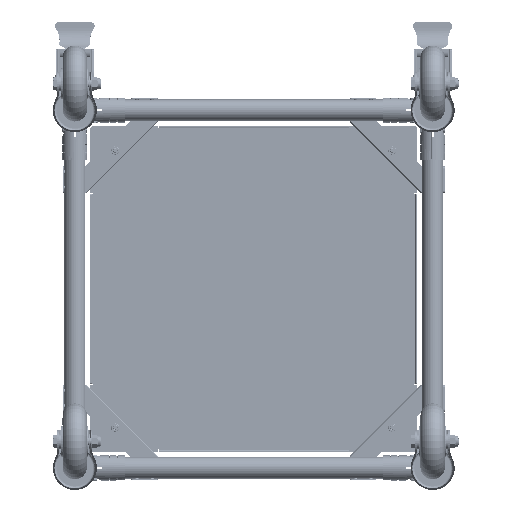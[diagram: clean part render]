
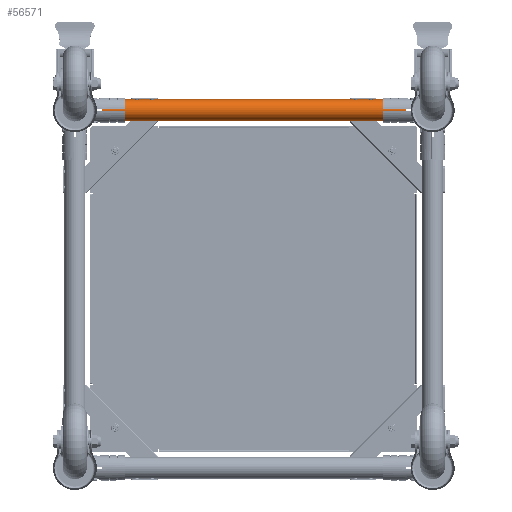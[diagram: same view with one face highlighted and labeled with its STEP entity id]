
A CAD part, front view. The second image highlights one B-rep face of the part: STEP entity #56571.
In plain terms, the highlighted cylindrical face has radius 14 mm (diameter 28 mm), a partial arc.
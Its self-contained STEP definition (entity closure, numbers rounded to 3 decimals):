
#1872 = DIRECTION ( 'NONE',  ( 0., 0., -1. ) ) ;
#2148 = CARTESIAN_POINT ( 'NONE',  ( 14., 0., -200. ) ) ;
#7044 = VERTEX_POINT ( 'NONE', #37733 ) ;
#7471 = CIRCLE ( 'NONE', #70562, 14. ) ;
#7907 = VERTEX_POINT ( 'NONE', #2148 ) ;
#10592 = DIRECTION ( 'NONE',  ( 0., 0., -1. ) ) ;
#16693 = LINE ( 'NONE', #81650, #55185 ) ;
#18286 = DIRECTION ( 'NONE',  ( 0., 0., 1. ) ) ;
#20126 = CARTESIAN_POINT ( 'NONE',  ( -14., 0., 200. ) ) ;
#25223 = LINE ( 'NONE', #44952, #53653 ) ;
#25783 = ORIENTED_EDGE ( 'NONE', *, *, #34199, .T. ) ;
#29890 = CARTESIAN_POINT ( 'NONE',  ( -14., 0., -200. ) ) ;
#33917 = VERTEX_POINT ( 'NONE', #29890 ) ;
#34199 = EDGE_CURVE ( 'NONE', #7907, #33917, #7471, .T. ) ;
#34887 = CYLINDRICAL_SURFACE ( 'NONE', #36739, 14. ) ;
#36739 = AXIS2_PLACEMENT_3D ( 'NONE', #75280, #1872, #61533 ) ;
#37733 = CARTESIAN_POINT ( 'NONE',  ( 14., 0., 200. ) ) ;
#39444 = CIRCLE ( 'NONE', #40849, 14. ) ;
#39727 = EDGE_CURVE ( 'NONE', #7044, #67035, #39444, .T. ) ;
#40849 = AXIS2_PLACEMENT_3D ( 'NONE', #64288, #18286, #50126 ) ;
#43513 = DIRECTION ( 'NONE',  ( 1., 0., 0. ) ) ;
#44952 = CARTESIAN_POINT ( 'NONE',  ( -14., 0., 200. ) ) ;
#48540 = DIRECTION ( 'NONE',  ( 0., 0., -1. ) ) ;
#49049 = FACE_OUTER_BOUND ( 'NONE', #72222, .T. ) ;
#50126 = DIRECTION ( 'NONE',  ( 1., 0., 0. ) ) ;
#53653 = VECTOR ( 'NONE', #10592, 1000. ) ;
#55185 = VECTOR ( 'NONE', #48540, 1000. ) ;
#56571 = ADVANCED_FACE ( 'NONE', ( #49049 ), #34887, .T. ) ;
#61533 = DIRECTION ( 'NONE',  ( -1., 0., 0. ) ) ;
#64147 = DIRECTION ( 'NONE',  ( 0., 0., 1. ) ) ;
#64288 = CARTESIAN_POINT ( 'NONE',  ( 0., 0., 200. ) ) ;
#65501 = ORIENTED_EDGE ( 'NONE', *, *, #39727, .F. ) ;
#66429 = EDGE_CURVE ( 'NONE', #7044, #7907, #16693, .T. ) ;
#67035 = VERTEX_POINT ( 'NONE', #20126 ) ;
#70562 = AXIS2_PLACEMENT_3D ( 'NONE', #76214, #64147, #43513 ) ;
#72222 = EDGE_LOOP ( 'NONE', ( #65501, #79575, #25783, #82272 ) ) ;
#75280 = CARTESIAN_POINT ( 'NONE',  ( 0., 0., 200. ) ) ;
#76214 = CARTESIAN_POINT ( 'NONE',  ( 0., 0., -200. ) ) ;
#77410 = EDGE_CURVE ( 'NONE', #67035, #33917, #25223, .T. ) ;
#79575 = ORIENTED_EDGE ( 'NONE', *, *, #66429, .T. ) ;
#81650 = CARTESIAN_POINT ( 'NONE',  ( 14., 0., 200. ) ) ;
#82272 = ORIENTED_EDGE ( 'NONE', *, *, #77410, .F. ) ;
